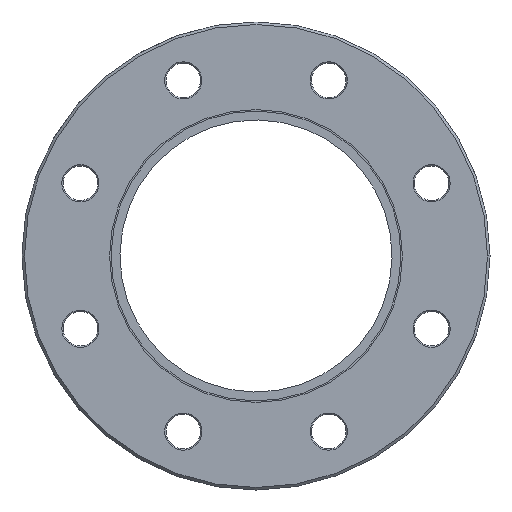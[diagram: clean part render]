
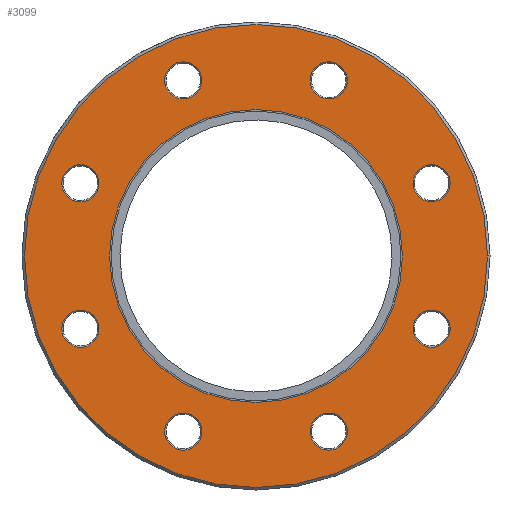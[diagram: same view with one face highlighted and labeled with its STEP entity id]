
A CAD part, left-side view. The second image highlights one B-rep face of the part: STEP entity #3099.
In plain terms, the highlighted planar face has unit normal (-1, 0, 0).
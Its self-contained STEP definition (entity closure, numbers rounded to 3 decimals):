
#308=CARTESIAN_POINT('',(-4.996,35.5,0.));
#309=VERTEX_POINT('',#308);
#318=CARTESIAN_POINT('',(-4.996,-35.5,0.));
#319=VERTEX_POINT('',#318);
#320=CARTESIAN_POINT('',(-4.996,0.,0.));
#321=DIRECTION('',(1.0,0.0,0.0));
#322=DIRECTION('',(0.0,1.0,0.0));
#323=AXIS2_PLACEMENT_3D('',#320,#321,#322);
#324=CIRCLE('',#323,35.5);
#325=EDGE_CURVE('',#319,#309,#324,.T.);
#350=CARTESIAN_POINT('',(-4.996,-56.15,0.));
#351=VERTEX_POINT('',#350);
#360=CARTESIAN_POINT('',(-4.996,56.15,0.));
#361=VERTEX_POINT('',#360);
#362=CARTESIAN_POINT('',(-4.996,0.,0.));
#363=DIRECTION('',(1.0,0.0,0.0));
#364=DIRECTION('',(0.0,-1.0,0.0));
#365=AXIS2_PLACEMENT_3D('',#362,#363,#364);
#366=CIRCLE('',#365,56.15);
#367=EDGE_CURVE('',#351,#361,#366,.T.);
#538=CARTESIAN_POINT('',(-4.996,42.591,-22.142));
#539=VERTEX_POINT('',#538);
#553=CARTESIAN_POINT('',(-4.996,42.591,-13.142));
#554=VERTEX_POINT('',#553);
#561=CARTESIAN_POINT('',(-4.996,42.591,-17.642));
#562=DIRECTION('',(-1.0,0.0,0.0));
#563=DIRECTION('',(0.0,0.0,-1.0));
#564=AXIS2_PLACEMENT_3D('',#561,#562,#563);
#565=CIRCLE('',#564,4.5);
#566=EDGE_CURVE('',#554,#539,#565,.T.);
#677=CARTESIAN_POINT('',(-4.996,45.773,14.46));
#678=VERTEX_POINT('',#677);
#692=CARTESIAN_POINT('',(-4.996,39.409,20.824));
#693=VERTEX_POINT('',#692);
#700=CARTESIAN_POINT('',(-4.996,42.591,17.642));
#701=DIRECTION('',(-1.,0.,0.));
#702=DIRECTION('',(0.,0.707,-0.707));
#703=AXIS2_PLACEMENT_3D('',#700,#701,#702);
#704=CIRCLE('',#703,4.5);
#705=EDGE_CURVE('',#693,#678,#704,.T.);
#816=CARTESIAN_POINT('',(-4.996,22.142,42.591));
#817=VERTEX_POINT('',#816);
#831=CARTESIAN_POINT('',(-4.996,13.142,42.591));
#832=VERTEX_POINT('',#831);
#839=CARTESIAN_POINT('',(-4.996,17.642,42.591));
#840=DIRECTION('',(-1.0,0.0,0.0));
#841=DIRECTION('',(0.0,1.0,0.0));
#842=AXIS2_PLACEMENT_3D('',#839,#840,#841);
#843=CIRCLE('',#842,4.5);
#844=EDGE_CURVE('',#832,#817,#843,.T.);
#955=CARTESIAN_POINT('',(-4.996,-14.46,45.773));
#956=VERTEX_POINT('',#955);
#970=CARTESIAN_POINT('',(-4.996,-20.824,39.409));
#971=VERTEX_POINT('',#970);
#978=CARTESIAN_POINT('',(-4.996,-17.642,42.591));
#979=DIRECTION('',(-1.0,0.,0.));
#980=DIRECTION('',(0.,0.707,0.707));
#981=AXIS2_PLACEMENT_3D('',#978,#979,#980);
#982=CIRCLE('',#981,4.5);
#983=EDGE_CURVE('',#971,#956,#982,.T.);
#1094=CARTESIAN_POINT('',(-4.996,-42.591,22.142));
#1095=VERTEX_POINT('',#1094);
#1109=CARTESIAN_POINT('',(-4.996,-42.591,13.142));
#1110=VERTEX_POINT('',#1109);
#1117=CARTESIAN_POINT('',(-4.996,-42.591,17.642));
#1118=DIRECTION('',(-1.0,0.0,0.0));
#1119=DIRECTION('',(0.0,0.0,1.0));
#1120=AXIS2_PLACEMENT_3D('',#1117,#1118,#1119);
#1121=CIRCLE('',#1120,4.5);
#1122=EDGE_CURVE('',#1110,#1095,#1121,.T.);
#1233=CARTESIAN_POINT('',(-4.996,-45.773,-14.46));
#1234=VERTEX_POINT('',#1233);
#1248=CARTESIAN_POINT('',(-4.996,-39.409,-20.824));
#1249=VERTEX_POINT('',#1248);
#1256=CARTESIAN_POINT('',(-4.996,-42.591,-17.642));
#1257=DIRECTION('',(-1.,0.,0.));
#1258=DIRECTION('',(0.,-0.707,0.707));
#1259=AXIS2_PLACEMENT_3D('',#1256,#1257,#1258);
#1260=CIRCLE('',#1259,4.5);
#1261=EDGE_CURVE('',#1249,#1234,#1260,.T.);
#1372=CARTESIAN_POINT('',(-4.996,-22.142,-42.591));
#1373=VERTEX_POINT('',#1372);
#1387=CARTESIAN_POINT('',(-4.996,-13.142,-42.591));
#1388=VERTEX_POINT('',#1387);
#1395=CARTESIAN_POINT('',(-4.996,-17.642,-42.591));
#1396=DIRECTION('',(-1.0,0.0,0.0));
#1397=DIRECTION('',(0.0,-1.0,0.0));
#1398=AXIS2_PLACEMENT_3D('',#1395,#1396,#1397);
#1399=CIRCLE('',#1398,4.5);
#1400=EDGE_CURVE('',#1388,#1373,#1399,.T.);
#1511=CARTESIAN_POINT('',(-4.996,14.46,-45.773));
#1512=VERTEX_POINT('',#1511);
#1526=CARTESIAN_POINT('',(-4.996,20.824,-39.409));
#1527=VERTEX_POINT('',#1526);
#1534=CARTESIAN_POINT('',(-4.996,17.642,-42.591));
#1535=DIRECTION('',(-1.,0.,0.));
#1536=DIRECTION('',(0.,-0.707,-0.707));
#1537=AXIS2_PLACEMENT_3D('',#1534,#1535,#1536);
#1538=CIRCLE('',#1537,4.5);
#1539=EDGE_CURVE('',#1527,#1512,#1538,.T.);
#2955=CARTESIAN_POINT('',(-4.996,17.642,-42.591));
#2956=DIRECTION('',(-1.,0.,0.));
#2957=DIRECTION('',(0.,-0.707,-0.707));
#2958=AXIS2_PLACEMENT_3D('',#2955,#2956,#2957);
#2959=CIRCLE('',#2958,4.5);
#2960=EDGE_CURVE('',#1512,#1527,#2959,.T.);
#3000=CARTESIAN_POINT('',(-4.996,46.125,0.));
#3001=DIRECTION('',(-1.0,0.0,0.0));
#3002=DIRECTION('',(0.0,0.0,1.0));
#3003=AXIS2_PLACEMENT_3D('',#3000,#3001,#3002);
#3004=PLANE('',#3003);
#3005=CARTESIAN_POINT('',(-4.996,0.,0.));
#3006=DIRECTION('',(1.0,0.0,0.0));
#3007=DIRECTION('',(0.0,-1.0,0.0));
#3008=AXIS2_PLACEMENT_3D('',#3005,#3006,#3007);
#3009=CIRCLE('',#3008,56.15);
#3010=EDGE_CURVE('',#361,#351,#3009,.T.);
#3011=ORIENTED_EDGE('',*,*,#3010,.F.);
#3012=ORIENTED_EDGE('',*,*,#367,.F.);
#3013=EDGE_LOOP('',(#3011,#3012));
#3014=FACE_OUTER_BOUND('',#3013,.T.);
#3015=ORIENTED_EDGE('',*,*,#1400,.F.);
#3016=CARTESIAN_POINT('',(-4.996,-17.642,-42.591));
#3017=DIRECTION('',(-1.0,0.0,0.0));
#3018=DIRECTION('',(0.0,-1.0,0.0));
#3019=AXIS2_PLACEMENT_3D('',#3016,#3017,#3018);
#3020=CIRCLE('',#3019,4.5);
#3021=EDGE_CURVE('',#1373,#1388,#3020,.T.);
#3022=ORIENTED_EDGE('',*,*,#3021,.F.);
#3023=EDGE_LOOP('',(#3015,#3022));
#3024=FACE_BOUND('',#3023,.T.);
#3025=ORIENTED_EDGE('',*,*,#1122,.F.);
#3026=CARTESIAN_POINT('',(-4.996,-42.591,17.642));
#3027=DIRECTION('',(-1.0,0.0,0.0));
#3028=DIRECTION('',(0.0,0.0,1.0));
#3029=AXIS2_PLACEMENT_3D('',#3026,#3027,#3028);
#3030=CIRCLE('',#3029,4.5);
#3031=EDGE_CURVE('',#1095,#1110,#3030,.T.);
#3032=ORIENTED_EDGE('',*,*,#3031,.F.);
#3033=EDGE_LOOP('',(#3025,#3032));
#3034=FACE_BOUND('',#3033,.T.);
#3035=ORIENTED_EDGE('',*,*,#844,.F.);
#3036=CARTESIAN_POINT('',(-4.996,17.642,42.591));
#3037=DIRECTION('',(-1.0,0.0,0.0));
#3038=DIRECTION('',(0.0,1.0,0.0));
#3039=AXIS2_PLACEMENT_3D('',#3036,#3037,#3038);
#3040=CIRCLE('',#3039,4.5);
#3041=EDGE_CURVE('',#817,#832,#3040,.T.);
#3042=ORIENTED_EDGE('',*,*,#3041,.F.);
#3043=EDGE_LOOP('',(#3035,#3042));
#3044=FACE_BOUND('',#3043,.T.);
#3045=ORIENTED_EDGE('',*,*,#566,.F.);
#3046=CARTESIAN_POINT('',(-4.996,42.591,-17.642));
#3047=DIRECTION('',(-1.0,0.0,0.0));
#3048=DIRECTION('',(0.0,0.0,-1.0));
#3049=AXIS2_PLACEMENT_3D('',#3046,#3047,#3048);
#3050=CIRCLE('',#3049,4.5);
#3051=EDGE_CURVE('',#539,#554,#3050,.T.);
#3052=ORIENTED_EDGE('',*,*,#3051,.F.);
#3053=EDGE_LOOP('',(#3045,#3052));
#3054=FACE_BOUND('',#3053,.T.);
#3055=CARTESIAN_POINT('',(-4.996,0.,0.));
#3056=DIRECTION('',(1.0,0.0,0.0));
#3057=DIRECTION('',(0.0,1.0,0.0));
#3058=AXIS2_PLACEMENT_3D('',#3055,#3056,#3057);
#3059=CIRCLE('',#3058,35.5);
#3060=EDGE_CURVE('',#309,#319,#3059,.T.);
#3061=ORIENTED_EDGE('',*,*,#3060,.T.);
#3062=ORIENTED_EDGE('',*,*,#325,.T.);
#3063=EDGE_LOOP('',(#3061,#3062));
#3064=FACE_BOUND('',#3063,.T.);
#3065=ORIENTED_EDGE('',*,*,#705,.F.);
#3066=CARTESIAN_POINT('',(-4.996,42.591,17.642));
#3067=DIRECTION('',(-1.,0.,0.));
#3068=DIRECTION('',(0.,0.707,-0.707));
#3069=AXIS2_PLACEMENT_3D('',#3066,#3067,#3068);
#3070=CIRCLE('',#3069,4.5);
#3071=EDGE_CURVE('',#678,#693,#3070,.T.);
#3072=ORIENTED_EDGE('',*,*,#3071,.F.);
#3073=EDGE_LOOP('',(#3065,#3072));
#3074=FACE_BOUND('',#3073,.T.);
#3075=ORIENTED_EDGE('',*,*,#983,.F.);
#3076=CARTESIAN_POINT('',(-4.996,-17.642,42.591));
#3077=DIRECTION('',(-1.0,0.,0.));
#3078=DIRECTION('',(0.,0.707,0.707));
#3079=AXIS2_PLACEMENT_3D('',#3076,#3077,#3078);
#3080=CIRCLE('',#3079,4.5);
#3081=EDGE_CURVE('',#956,#971,#3080,.T.);
#3082=ORIENTED_EDGE('',*,*,#3081,.F.);
#3083=EDGE_LOOP('',(#3075,#3082));
#3084=FACE_BOUND('',#3083,.T.);
#3085=ORIENTED_EDGE('',*,*,#1261,.F.);
#3086=CARTESIAN_POINT('',(-4.996,-42.591,-17.642));
#3087=DIRECTION('',(-1.,0.,0.));
#3088=DIRECTION('',(0.,-0.707,0.707));
#3089=AXIS2_PLACEMENT_3D('',#3086,#3087,#3088);
#3090=CIRCLE('',#3089,4.5);
#3091=EDGE_CURVE('',#1234,#1249,#3090,.T.);
#3092=ORIENTED_EDGE('',*,*,#3091,.F.);
#3093=EDGE_LOOP('',(#3085,#3092));
#3094=FACE_BOUND('',#3093,.T.);
#3095=ORIENTED_EDGE('',*,*,#1539,.F.);
#3096=ORIENTED_EDGE('',*,*,#2960,.F.);
#3097=EDGE_LOOP('',(#3095,#3096));
#3098=FACE_BOUND('',#3097,.T.);
#3099=ADVANCED_FACE('',(#3014,#3024,#3034,#3044,#3054,#3064,#3074,#3084,#3094,#3098),#3004,.T.);
